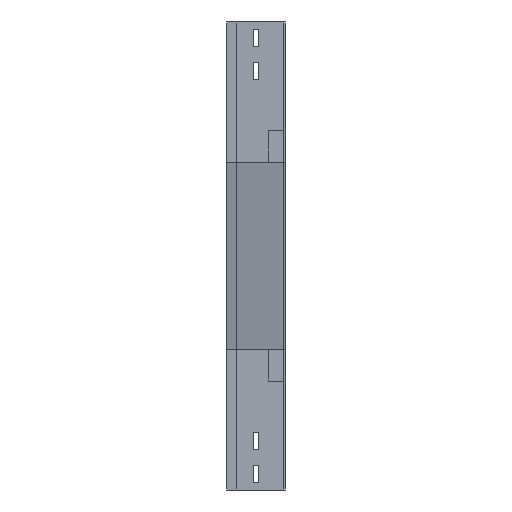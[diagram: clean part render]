
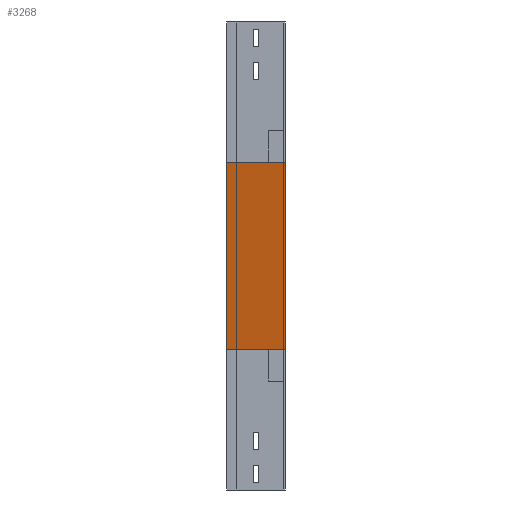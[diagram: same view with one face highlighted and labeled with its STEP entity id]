
A CAD part, left-side view. The second image highlights one B-rep face of the part: STEP entity #3268.
In plain terms, the highlighted planar face has unit normal (-0.979, 0, -0.204).
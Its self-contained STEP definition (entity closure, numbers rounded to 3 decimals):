
#71 = EDGE_CURVE ( 'NONE', #2895, #237, #3818, .T. ) ;
#123 = EDGE_CURVE ( 'NONE', #701, #2137, #432, .T. ) ;
#237 = VERTEX_POINT ( 'NONE', #3068 ) ;
#303 = CARTESIAN_POINT ( 'NONE',  ( 50., 0., -420. ) ) ;
#432 = LINE ( 'NONE', #3194, #3225 ) ;
#473 = CARTESIAN_POINT ( 'NONE',  ( 0., 0., -180. ) ) ;
#521 = VECTOR ( 'NONE', #998, 1000. ) ;
#641 = CARTESIAN_POINT ( 'NONE',  ( 0., 0., -180. ) ) ;
#678 = DIRECTION ( 'NONE',  ( 0.204, 0., -0.979 ) ) ;
#701 = VERTEX_POINT ( 'NONE', #641 ) ;
#712 = DIRECTION ( 'NONE',  ( 0.979, 0., 0.204 ) ) ;
#875 = DIRECTION ( 'NONE',  ( 0.204, 0., -0.979 ) ) ;
#883 = ORIENTED_EDGE ( 'NONE', *, *, #2258, .F. ) ;
#998 = DIRECTION ( 'NONE',  ( 0., 1., 0. ) ) ;
#1321 = ORIENTED_EDGE ( 'NONE', *, *, #123, .F. ) ;
#1362 = CARTESIAN_POINT ( 'NONE',  ( 50., 0., -420. ) ) ;
#1650 = LINE ( 'NONE', #473, #3165 ) ;
#2076 = VECTOR ( 'NONE', #875, 1000. ) ;
#2137 = VERTEX_POINT ( 'NONE', #1362 ) ;
#2253 = DIRECTION ( 'NONE',  ( 0., -1., 0. ) ) ;
#2258 = EDGE_CURVE ( 'NONE', #2895, #701, #1650, .T. ) ;
#2283 = AXIS2_PLACEMENT_3D ( 'NONE', #3470, #712, #678 ) ;
#2499 = FACE_OUTER_BOUND ( 'NONE', #3589, .T. ) ;
#2520 = EDGE_CURVE ( 'NONE', #2137, #237, #3113, .T. ) ;
#2602 = DIRECTION ( 'NONE',  ( 0.204, 0., -0.979 ) ) ;
#2833 = ORIENTED_EDGE ( 'NONE', *, *, #2520, .F. ) ;
#2858 = PLANE ( 'NONE',  #2283 ) ;
#2895 = VERTEX_POINT ( 'NONE', #3699 ) ;
#3068 = CARTESIAN_POINT ( 'NONE',  ( 50., 75., -420. ) ) ;
#3075 = ORIENTED_EDGE ( 'NONE', *, *, #71, .T. ) ;
#3113 = LINE ( 'NONE', #303, #521 ) ;
#3165 = VECTOR ( 'NONE', #2253, 1000. ) ;
#3194 = CARTESIAN_POINT ( 'NONE',  ( 0., 0., -180. ) ) ;
#3225 = VECTOR ( 'NONE', #2602, 1000. ) ;
#3268 = ADVANCED_FACE ( 'NONE', ( #2499 ), #2858, .F. ) ;
#3470 = CARTESIAN_POINT ( 'NONE',  ( 0., 0., -180. ) ) ;
#3589 = EDGE_LOOP ( 'NONE', ( #1321, #883, #3075, #2833 ) ) ;
#3626 = CARTESIAN_POINT ( 'NONE',  ( 0., 75., -180. ) ) ;
#3699 = CARTESIAN_POINT ( 'NONE',  ( 0., 75., -180. ) ) ;
#3818 = LINE ( 'NONE', #3626, #2076 ) ;
